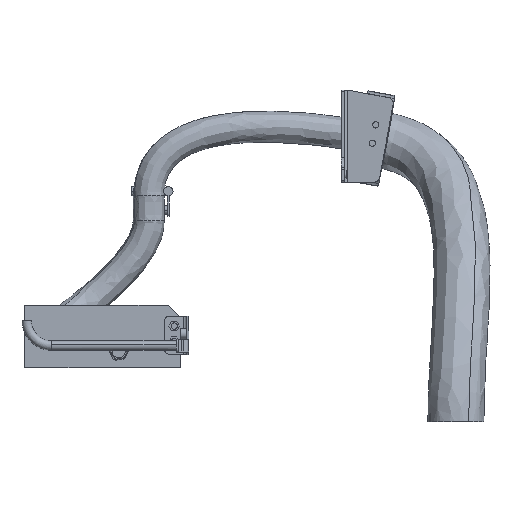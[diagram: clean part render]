
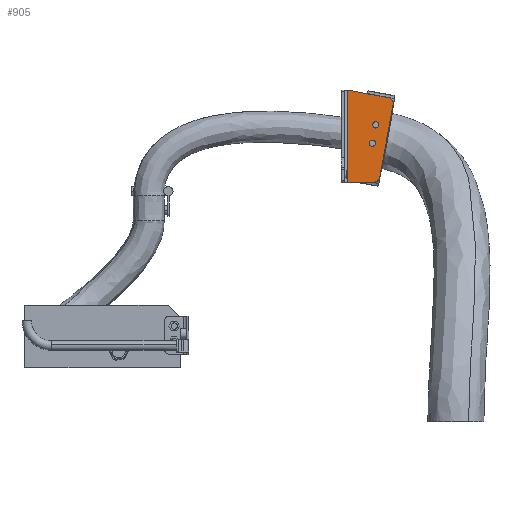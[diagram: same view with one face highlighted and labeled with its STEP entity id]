
A CAD part, left-side view. The second image highlights one B-rep face of the part: STEP entity #905.
In plain terms, the highlighted planar face has unit normal (-1, 0, 0).
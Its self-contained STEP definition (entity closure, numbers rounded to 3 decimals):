
#16 = VECTOR ( 'NONE', #11838, 1000. ) ;
#144 = CIRCLE ( 'NONE', #22962, 5. ) ;
#261 = CARTESIAN_POINT ( 'NONE',  ( 529., -175.5, 2706.992 ) ) ;
#503 = VERTEX_POINT ( 'NONE', #2891 ) ;
#601 = DIRECTION ( 'NONE',  ( -1., 0., 0. ) ) ;
#905 = ADVANCED_FACE ( 'NONE', ( #13163, #22127, #18844 ), #11866, .F. ) ;
#1444 = CARTESIAN_POINT ( 'NONE',  ( 529., -185.5, 2706.992 ) ) ;
#1641 = VERTEX_POINT ( 'NONE', #1444 ) ;
#1751 = AXIS2_PLACEMENT_3D ( 'NONE', #18869, #13540, #2500 ) ;
#2023 = DIRECTION ( 'NONE',  ( -1., 0., 0. ) ) ;
#2120 = DIRECTION ( 'NONE',  ( 0., 1., 0. ) ) ;
#2193 = CARTESIAN_POINT ( 'NONE',  ( 529., -186.741, 2623.167 ) ) ;
#2484 = CARTESIAN_POINT ( 'NONE',  ( 529., -180.5, 2706.992 ) ) ;
#2500 = DIRECTION ( 'NONE',  ( 0., 1., 0. ) ) ;
#2592 = CARTESIAN_POINT ( 'NONE',  ( 529., -130., 2763. ) ) ;
#2646 = ORIENTED_EDGE ( 'NONE', *, *, #8057, .T. ) ;
#2684 = DIRECTION ( 'NONE',  ( 0., -1., 0. ) ) ;
#2891 = CARTESIAN_POINT ( 'NONE',  ( 529., -135., 2615. ) ) ;
#3125 = CARTESIAN_POINT ( 'NONE',  ( 529., -130.168, 2763.901 ) ) ;
#3358 = VERTEX_POINT ( 'NONE', #13233 ) ;
#3608 = DIRECTION ( 'NONE',  ( -1., 0., 0. ) ) ;
#3819 = AXIS2_PLACEMENT_3D ( 'NONE', #5338, #2023, #21556 ) ;
#4418 = CIRCLE ( 'NONE', #1751, 5. ) ;
#4506 = VERTEX_POINT ( 'NONE', #2193 ) ;
#4600 = VECTOR ( 'NONE', #20904, 1000. ) ;
#4657 = CARTESIAN_POINT ( 'NONE',  ( 529., -210.035, 2748.074 ) ) ;
#4807 = VECTOR ( 'NONE', #2684, 1000. ) ;
#4913 = LINE ( 'NONE', #22920, #16 ) ;
#5338 = CARTESIAN_POINT ( 'NONE',  ( 529., -198.54, 2740.978 ) ) ;
#5980 = AXIS2_PLACEMENT_3D ( 'NONE', #16445, #601, #7557 ) ;
#6404 = DIRECTION ( 'NONE',  ( 0., 1., 0. ) ) ;
#6413 = LINE ( 'NONE', #4657, #4600 ) ;
#6419 = VERTEX_POINT ( 'NONE', #20873 ) ;
#6874 = EDGE_CURVE ( 'NONE', #6419, #10460, #12793, .T. ) ;
#6882 = VERTEX_POINT ( 'NONE', #19745 ) ;
#7098 = CIRCLE ( 'NONE', #5980, 10. ) ;
#7229 = ORIENTED_EDGE ( 'NONE', *, *, #23171, .T. ) ;
#7557 = DIRECTION ( 'NONE',  ( 0., 1., 0. ) ) ;
#7814 = AXIS2_PLACEMENT_3D ( 'NONE', #2592, #15249, #18950 ) ;
#7893 = CIRCLE ( 'NONE', #7945, 5. ) ;
#7945 = AXIS2_PLACEMENT_3D ( 'NONE', #2484, #18177, #2120 ) ;
#7966 = CARTESIAN_POINT ( 'NONE',  ( 529., -180.5, 2706.992 ) ) ;
#8057 = EDGE_CURVE ( 'NONE', #3358, #4506, #7098, .T. ) ;
#9268 = DIRECTION ( 'NONE',  ( 0., 1., 0. ) ) ;
#10165 = EDGE_CURVE ( 'NONE', #1641, #23066, #144, .T. ) ;
#10460 = VERTEX_POINT ( 'NONE', #22654 ) ;
#10550 = DIRECTION ( 'NONE',  ( 0., -0.983, -0.183 ) ) ;
#11113 = EDGE_CURVE ( 'NONE', #12999, #4506, #6413, .T. ) ;
#11216 = ORIENTED_EDGE ( 'NONE', *, *, #13897, .T. ) ;
#11524 = ORIENTED_EDGE ( 'NONE', *, *, #11113, .F. ) ;
#11643 = EDGE_CURVE ( 'NONE', #6882, #12520, #13922, .T. ) ;
#11838 = DIRECTION ( 'NONE',  ( 0., 0., 1. ) ) ;
#11866 = PLANE ( 'NONE',  #7814 ) ;
#12309 = CARTESIAN_POINT ( 'NONE',  ( 529., -175., 2677.5 ) ) ;
#12520 = VERTEX_POINT ( 'NONE', #20963 ) ;
#12793 = CIRCLE ( 'NONE', #15584, 5. ) ;
#12916 = ORIENTED_EDGE ( 'NONE', *, *, #17115, .F. ) ;
#12999 = VERTEX_POINT ( 'NONE', #13304 ) ;
#13163 = FACE_OUTER_BOUND ( 'NONE', #14436, .T. ) ;
#13226 = DIRECTION ( 'NONE',  ( -1., 0., 0. ) ) ;
#13233 = CARTESIAN_POINT ( 'NONE',  ( 529., -176.91, 2615. ) ) ;
#13304 = CARTESIAN_POINT ( 'NONE',  ( 529., -208.37, 2739.144 ) ) ;
#13540 = DIRECTION ( 'NONE',  ( -1., 0., 0. ) ) ;
#13684 = EDGE_LOOP ( 'NONE', ( #21020, #15904 ) ) ;
#13897 = EDGE_CURVE ( 'NONE', #503, #3358, #19164, .T. ) ;
#13922 = LINE ( 'NONE', #3125, #16519 ) ;
#13937 = CIRCLE ( 'NONE', #3819, 10. ) ;
#14436 = EDGE_LOOP ( 'NONE', ( #11216, #2646, #11524, #7229, #20991, #14677 ) ) ;
#14677 = ORIENTED_EDGE ( 'NONE', *, *, #22057, .F. ) ;
#15249 = DIRECTION ( 'NONE',  ( 1., 0., 0. ) ) ;
#15584 = AXIS2_PLACEMENT_3D ( 'NONE', #12309, #3608, #9268 ) ;
#15904 = ORIENTED_EDGE ( 'NONE', *, *, #10165, .F. ) ;
#16445 = CARTESIAN_POINT ( 'NONE',  ( 529., -176.91, 2625. ) ) ;
#16519 = VECTOR ( 'NONE', #10550, 1000. ) ;
#16575 = EDGE_LOOP ( 'NONE', ( #12916, #18975 ) ) ;
#17115 = EDGE_CURVE ( 'NONE', #10460, #6419, #4418, .T. ) ;
#17197 = CARTESIAN_POINT ( 'NONE',  ( 529., -130., 2615. ) ) ;
#18177 = DIRECTION ( 'NONE',  ( -1., 0., 0. ) ) ;
#18844 = FACE_BOUND ( 'NONE', #13684, .T. ) ;
#18869 = CARTESIAN_POINT ( 'NONE',  ( 529., -175., 2677.5 ) ) ;
#18950 = DIRECTION ( 'NONE',  ( 0., 1., 0. ) ) ;
#18975 = ORIENTED_EDGE ( 'NONE', *, *, #6874, .F. ) ;
#19164 = LINE ( 'NONE', #17197, #4807 ) ;
#19745 = CARTESIAN_POINT ( 'NONE',  ( 529., -135., 2763. ) ) ;
#20873 = CARTESIAN_POINT ( 'NONE',  ( 529., -180., 2677.5 ) ) ;
#20904 = DIRECTION ( 'NONE',  ( 0., 0.183, -0.983 ) ) ;
#20963 = CARTESIAN_POINT ( 'NONE',  ( 529., -200.373, 2750.808 ) ) ;
#20991 = ORIENTED_EDGE ( 'NONE', *, *, #11643, .F. ) ;
#21020 = ORIENTED_EDGE ( 'NONE', *, *, #21706, .F. ) ;
#21556 = DIRECTION ( 'NONE',  ( 0., 1., 0. ) ) ;
#21706 = EDGE_CURVE ( 'NONE', #23066, #1641, #7893, .T. ) ;
#22057 = EDGE_CURVE ( 'NONE', #503, #6882, #4913, .T. ) ;
#22127 = FACE_BOUND ( 'NONE', #16575, .T. ) ;
#22654 = CARTESIAN_POINT ( 'NONE',  ( 529., -170., 2677.5 ) ) ;
#22920 = CARTESIAN_POINT ( 'NONE',  ( 529., -135., 2615. ) ) ;
#22962 = AXIS2_PLACEMENT_3D ( 'NONE', #7966, #13226, #6404 ) ;
#23066 = VERTEX_POINT ( 'NONE', #261 ) ;
#23171 = EDGE_CURVE ( 'NONE', #12999, #12520, #13937, .T. ) ;
